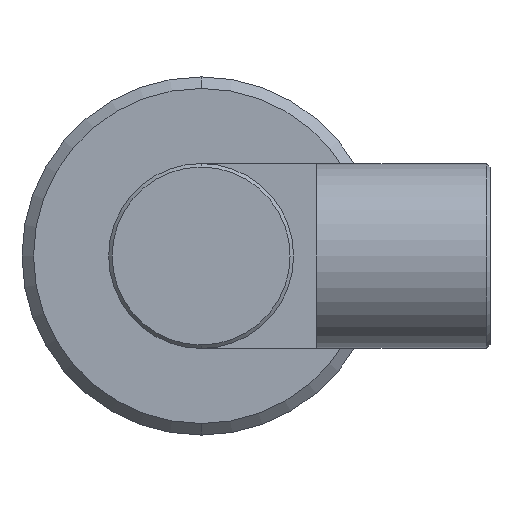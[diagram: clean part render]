
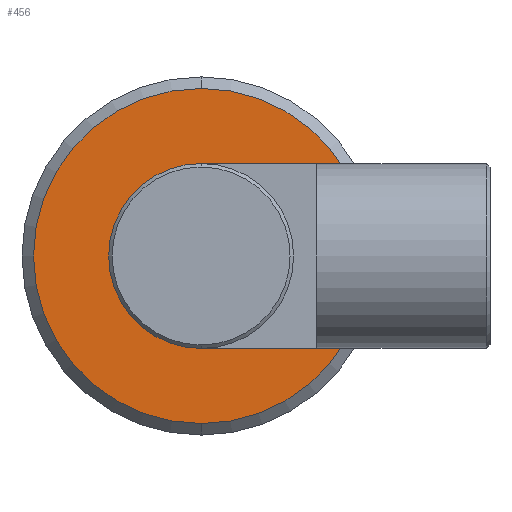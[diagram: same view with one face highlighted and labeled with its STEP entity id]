
A CAD part, left-side view. The second image highlights one B-rep face of the part: STEP entity #456.
In plain terms, the highlighted planar face has unit normal (-1, 0, 0).
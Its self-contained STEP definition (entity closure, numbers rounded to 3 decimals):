
#8 = AXIS2_PLACEMENT_3D ( 'NONE', #985, #1101, #746 ) ;
#27 = CARTESIAN_POINT ( 'NONE',  ( -24.026, 0., 14.5 ) ) ;
#41 = CARTESIAN_POINT ( 'NONE',  ( -24.026, 0., 0. ) ) ;
#62 = DIRECTION ( 'NONE',  ( 0., 0., 1. ) ) ;
#86 = DIRECTION ( 'NONE',  ( 0., 0., 1. ) ) ;
#91 = EDGE_CURVE ( 'NONE', #780, #922, #488, .T. ) ;
#121 = EDGE_LOOP ( 'NONE', ( #996, #379 ) ) ;
#157 = DIRECTION ( 'NONE',  ( 0., 0., 1. ) ) ;
#160 = CARTESIAN_POINT ( 'NONE',  ( -24.026, 0., 0. ) ) ;
#206 = FACE_OUTER_BOUND ( 'NONE', #121, .T. ) ;
#229 = CARTESIAN_POINT ( 'NONE',  ( -24.026, 0., -14.5 ) ) ;
#300 = EDGE_CURVE ( 'NONE', #496, #871, #308, .T. ) ;
#308 = CIRCLE ( 'NONE', #494, 8. ) ;
#333 = ORIENTED_EDGE ( 'NONE', *, *, #300, .F. ) ;
#376 = PLANE ( 'NONE',  #8 ) ;
#379 = ORIENTED_EDGE ( 'NONE', *, *, #91, .T. ) ;
#420 = FACE_BOUND ( 'NONE', #770, .T. ) ;
#456 = ADVANCED_FACE ( 'NONE', ( #420, #206 ), #376, .F. ) ;
#488 = CIRCLE ( 'NONE', #738, 14.5 ) ;
#494 = AXIS2_PLACEMENT_3D ( 'NONE', #875, #1128, #157 ) ;
#496 = VERTEX_POINT ( 'NONE', #737 ) ;
#511 = CIRCLE ( 'NONE', #934, 14.5 ) ;
#512 = CIRCLE ( 'NONE', #630, 8. ) ;
#545 = CARTESIAN_POINT ( 'NONE',  ( -24.026, 0., 0. ) ) ;
#583 = DIRECTION ( 'NONE',  ( -1., 0., 0. ) ) ;
#584 = EDGE_CURVE ( 'NONE', #871, #496, #512, .T. ) ;
#600 = DIRECTION ( 'NONE',  ( 0., 0., 1. ) ) ;
#630 = AXIS2_PLACEMENT_3D ( 'NONE', #160, #785, #62 ) ;
#635 = DIRECTION ( 'NONE',  ( -1., 0., 0. ) ) ;
#670 = CARTESIAN_POINT ( 'NONE',  ( -24.026, 0., -8. ) ) ;
#737 = CARTESIAN_POINT ( 'NONE',  ( -24.026, 0., 8. ) ) ;
#738 = AXIS2_PLACEMENT_3D ( 'NONE', #41, #583, #600 ) ;
#746 = DIRECTION ( 'NONE',  ( 0., 0., -1. ) ) ;
#770 = EDGE_LOOP ( 'NONE', ( #333, #810 ) ) ;
#780 = VERTEX_POINT ( 'NONE', #27 ) ;
#785 = DIRECTION ( 'NONE',  ( -1., 0., 0. ) ) ;
#810 = ORIENTED_EDGE ( 'NONE', *, *, #584, .F. ) ;
#871 = VERTEX_POINT ( 'NONE', #670 ) ;
#875 = CARTESIAN_POINT ( 'NONE',  ( -24.026, 0., 0. ) ) ;
#922 = VERTEX_POINT ( 'NONE', #229 ) ;
#934 = AXIS2_PLACEMENT_3D ( 'NONE', #545, #635, #86 ) ;
#985 = CARTESIAN_POINT ( 'NONE',  ( -24.026, 8., 0. ) ) ;
#996 = ORIENTED_EDGE ( 'NONE', *, *, #1102, .T. ) ;
#1101 = DIRECTION ( 'NONE',  ( 1., 0., 0. ) ) ;
#1102 = EDGE_CURVE ( 'NONE', #922, #780, #511, .T. ) ;
#1128 = DIRECTION ( 'NONE',  ( -1., 0., 0. ) ) ;
